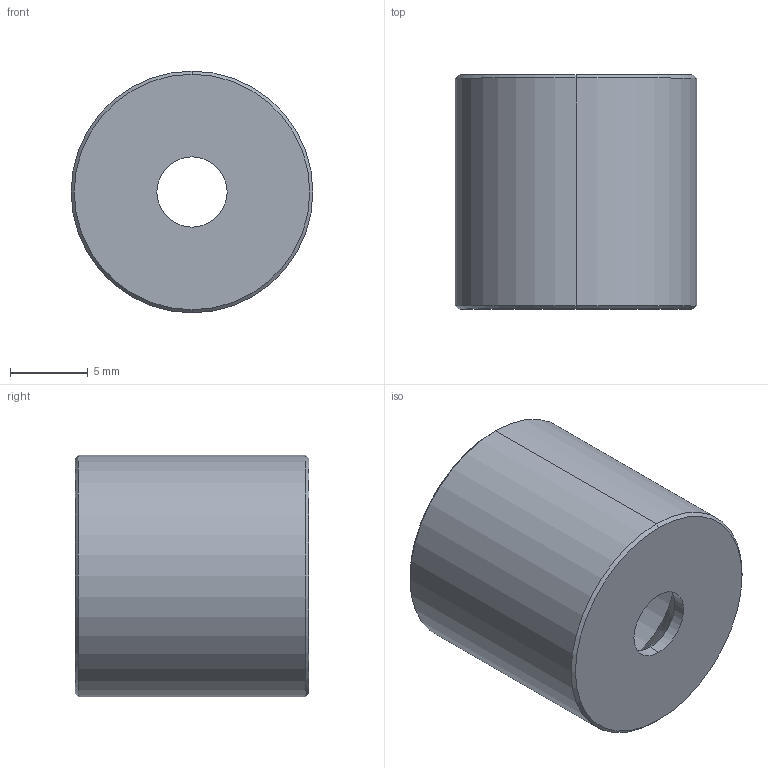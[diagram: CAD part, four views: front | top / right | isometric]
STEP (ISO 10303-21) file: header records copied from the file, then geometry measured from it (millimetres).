
FILE_DESCRIPTION (( 'STEP AP214' ), '1' );
FILE_NAME ('GMP14B.STEP', '2022-11-28T07:37:31', ( '微软用户' ), ( '微软中国' ), 'SwSTEP 2.0', 'SolidWorks 2018', '' );
FILE_SCHEMA (( 'AUTOMOTIVE_DESIGN' ));
Length unit declared in the file: millimetre
Products named in the file (1): GMP14B
Bounding box: 15.5 x 15 x 15.5 mm (x, y, z)
Volume: 1340.3 mm3; surface area: 1554.6 mm2
Topology: 1 solids, 1 shells, 27 faces, 54 edges, 30 vertices
Faces by surface type: cone 14, cylinder 10, plane 3
Entity records: 732 total; most frequent: DIRECTION 140, CARTESIAN_POINT 112, ORIENTED_EDGE 108, AXIS2_PLACEMENT_3D 58, EDGE_CURVE 54, CIRCLE 30, VERTEX_POINT 30, EDGE_LOOP 30
